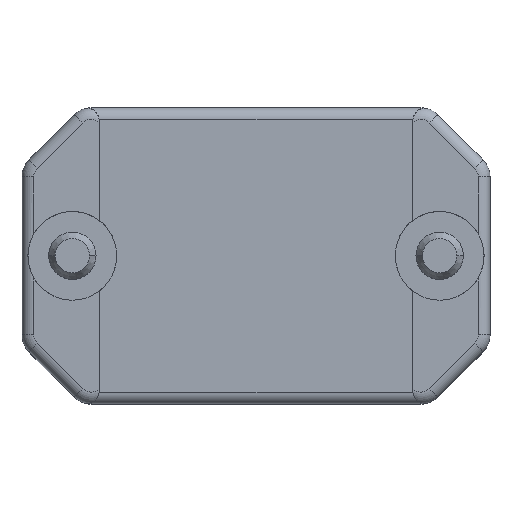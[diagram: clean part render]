
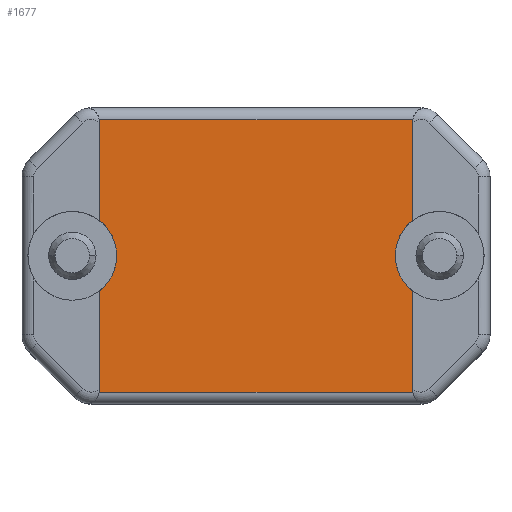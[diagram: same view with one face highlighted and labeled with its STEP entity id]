
A CAD part, top view. The second image highlights one B-rep face of the part: STEP entity #1677.
In plain terms, the highlighted planar face has unit normal (0, 0, 1).
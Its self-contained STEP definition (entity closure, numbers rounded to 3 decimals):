
#150 = EDGE_CURVE ( 'NONE', #5596, #7411, #4645, .T. ) ;
#203 = CIRCLE ( 'NONE', #348, 1. ) ;
#272 = CARTESIAN_POINT ( 'NONE',  ( 5.5, 1.055, 9. ) ) ;
#300 = ORIENTED_EDGE ( 'NONE', *, *, #7700, .T. ) ;
#348 = AXIS2_PLACEMENT_3D ( 'NONE', #272, #4813, #933 ) ;
#440 = DIRECTION ( 'NONE',  ( 1., 0., 0. ) ) ;
#495 = CARTESIAN_POINT ( 'NONE',  ( 33., 1.055, 9. ) ) ;
#511 = CIRCLE ( 'NONE', #4242, 3.75 ) ;
#521 = DIRECTION ( 'NONE',  ( 0., 0., -1. ) ) ;
#581 = CARTESIAN_POINT ( 'NONE',  ( 33., 25., 9. ) ) ;
#725 = DIRECTION ( 'NONE',  ( 0., 0., -1. ) ) ;
#731 = CARTESIAN_POINT ( 'NONE',  ( 6.5, 0., 9. ) ) ;
#771 = VERTEX_POINT ( 'NONE', #5314 ) ;
#933 = DIRECTION ( 'NONE',  ( 1., 0., 0. ) ) ;
#1113 = VERTEX_POINT ( 'NONE', #2887 ) ;
#1244 = ORIENTED_EDGE ( 'NONE', *, *, #4557, .T. ) ;
#1288 = LINE ( 'NONE', #581, #6015 ) ;
#1313 = VECTOR ( 'NONE', #4919, 1000. ) ;
#1366 = AXIS2_PLACEMENT_3D ( 'NONE', #6413, #2555, #7067 ) ;
#1473 = CARTESIAN_POINT ( 'NONE',  ( 6.5, 25., 9. ) ) ;
#1501 = VECTOR ( 'NONE', #4683, 1000. ) ;
#1509 = CARTESIAN_POINT ( 'NONE',  ( 6.5, 9.5, 9. ) ) ;
#1558 = CARTESIAN_POINT ( 'NONE',  ( 34., 1.055, 9. ) ) ;
#1594 = DIRECTION ( 'NONE',  ( 1., 0., 0. ) ) ;
#1659 = EDGE_CURVE ( 'NONE', #4354, #6805, #511, .T. ) ;
#1677 = ADVANCED_FACE ( 'NONE', ( #5474 ), #2575, .T. ) ;
#1685 = VERTEX_POINT ( 'NONE', #5813 ) ;
#1807 = ORIENTED_EDGE ( 'NONE', *, *, #2365, .T. ) ;
#1905 = CARTESIAN_POINT ( 'NONE',  ( 6.5, 15.5, 9. ) ) ;
#1939 = VERTEX_POINT ( 'NONE', #3158 ) ;
#2204 = DIRECTION ( 'NONE',  ( 1., 0., 0. ) ) ;
#2262 = DIRECTION ( 'NONE',  ( 0., 0., 1. ) ) ;
#2325 = ORIENTED_EDGE ( 'NONE', *, *, #1659, .T. ) ;
#2365 = EDGE_CURVE ( 'NONE', #5389, #4354, #6630, .T. ) ;
#2431 = LINE ( 'NONE', #3956, #6228 ) ;
#2517 = DIRECTION ( 'NONE',  ( 0., 1., 0. ) ) ;
#2555 = DIRECTION ( 'NONE',  ( 0., 0., -1. ) ) ;
#2575 = PLANE ( 'NONE',  #6385 ) ;
#2774 = ORIENTED_EDGE ( 'NONE', *, *, #3807, .T. ) ;
#2830 = CIRCLE ( 'NONE', #7352, 1. ) ;
#2887 = CARTESIAN_POINT ( 'NONE',  ( 33., 15.5, 9. ) ) ;
#2996 = CIRCLE ( 'NONE', #3946, 1. ) ;
#3054 = ORIENTED_EDGE ( 'NONE', *, *, #4441, .T. ) ;
#3077 = VERTEX_POINT ( 'NONE', #4220 ) ;
#3152 = EDGE_CURVE ( 'NONE', #3077, #5389, #5120, .T. ) ;
#3158 = CARTESIAN_POINT ( 'NONE',  ( 6.498, 1., 9. ) ) ;
#3179 = DIRECTION ( 'NONE',  ( 0., 0., -1. ) ) ;
#3262 = DIRECTION ( 'NONE',  ( 0., 0., -1. ) ) ;
#3295 = EDGE_CURVE ( 'NONE', #1113, #5999, #1288, .T. ) ;
#3401 = AXIS2_PLACEMENT_3D ( 'NONE', #8214, #4332, #440 ) ;
#3807 = EDGE_CURVE ( 'NONE', #5999, #7054, #2996, .T. ) ;
#3922 = EDGE_CURVE ( 'NONE', #7054, #3077, #5612, .T. ) ;
#3946 = AXIS2_PLACEMENT_3D ( 'NONE', #4405, #521, #5046 ) ;
#3951 = ORIENTED_EDGE ( 'NONE', *, *, #4336, .T. ) ;
#3956 = CARTESIAN_POINT ( 'NONE',  ( 33., 1., 9. ) ) ;
#4009 = ORIENTED_EDGE ( 'NONE', *, *, #150, .T. ) ;
#4024 = CIRCLE ( 'NONE', #1366, 3.75 ) ;
#4068 = ORIENTED_EDGE ( 'NONE', *, *, #7374, .T. ) ;
#4220 = CARTESIAN_POINT ( 'NONE',  ( 6.498, 24., 9. ) ) ;
#4242 = AXIS2_PLACEMENT_3D ( 'NONE', #7119, #3262, #7836 ) ;
#4313 = VECTOR ( 'NONE', #4656, 1000. ) ;
#4332 = DIRECTION ( 'NONE',  ( 0., 0., -1. ) ) ;
#4336 = EDGE_CURVE ( 'NONE', #6805, #5596, #5450, .T. ) ;
#4354 = VERTEX_POINT ( 'NONE', #1905 ) ;
#4405 = CARTESIAN_POINT ( 'NONE',  ( 34., 23.945, 9. ) ) ;
#4441 = EDGE_CURVE ( 'NONE', #1939, #1685, #2431, .T. ) ;
#4486 = ORIENTED_EDGE ( 'NONE', *, *, #6804, .T. ) ;
#4557 = EDGE_CURVE ( 'NONE', #1685, #6894, #2830, .T. ) ;
#4591 = CARTESIAN_POINT ( 'NONE',  ( 33., 23.945, 9. ) ) ;
#4593 = CARTESIAN_POINT ( 'NONE',  ( 35.25, 12.5, 9. ) ) ;
#4645 = LINE ( 'NONE', #7456, #6387 ) ;
#4656 = DIRECTION ( 'NONE',  ( -1., 0., 0. ) ) ;
#4683 = DIRECTION ( 'NONE',  ( 0., -1., 0. ) ) ;
#4776 = VERTEX_POINT ( 'NONE', #8217 ) ;
#4813 = DIRECTION ( 'NONE',  ( 0., 0., -1. ) ) ;
#4919 = DIRECTION ( 'NONE',  ( 0., 1., 0. ) ) ;
#5046 = DIRECTION ( 'NONE',  ( 1., 0., 0. ) ) ;
#5077 = EDGE_LOOP ( 'NONE', ( #4009, #6075, #3054, #1244, #4486, #300, #4068, #7073, #2774, #5362, #6851, #1807, #2325, #3951 ) ) ;
#5120 = CIRCLE ( 'NONE', #3401, 1. ) ;
#5184 = EDGE_CURVE ( 'NONE', #7411, #1939, #203, .T. ) ;
#5228 = DIRECTION ( 'NONE',  ( 1., 0., 0. ) ) ;
#5268 = CARTESIAN_POINT ( 'NONE',  ( 33.002, 24., 9. ) ) ;
#5314 = CARTESIAN_POINT ( 'NONE',  ( 33., 9.5, 9. ) ) ;
#5362 = ORIENTED_EDGE ( 'NONE', *, *, #3922, .T. ) ;
#5389 = VERTEX_POINT ( 'NONE', #7029 ) ;
#5450 = CIRCLE ( 'NONE', #7521, 3.75 ) ;
#5474 = FACE_OUTER_BOUND ( 'NONE', #5077, .T. ) ;
#5596 = VERTEX_POINT ( 'NONE', #1509 ) ;
#5612 = LINE ( 'NONE', #6593, #4313 ) ;
#5758 = DIRECTION ( 'NONE',  ( 0., -1., 0. ) ) ;
#5813 = CARTESIAN_POINT ( 'NONE',  ( 33.002, 1., 9. ) ) ;
#5841 = LINE ( 'NONE', #6856, #1313 ) ;
#5999 = VERTEX_POINT ( 'NONE', #4591 ) ;
#6015 = VECTOR ( 'NONE', #2517, 1000. ) ;
#6035 = DIRECTION ( 'NONE',  ( 0., 0., -1. ) ) ;
#6075 = ORIENTED_EDGE ( 'NONE', *, *, #5184, .T. ) ;
#6188 = CARTESIAN_POINT ( 'NONE',  ( 8., 12.5, 9. ) ) ;
#6228 = VECTOR ( 'NONE', #7156, 1000. ) ;
#6385 = AXIS2_PLACEMENT_3D ( 'NONE', #731, #2262, #1594 ) ;
#6387 = VECTOR ( 'NONE', #5758, 1000. ) ;
#6413 = CARTESIAN_POINT ( 'NONE',  ( 35.25, 12.5, 9. ) ) ;
#6521 = CIRCLE ( 'NONE', #6867, 3.75 ) ;
#6593 = CARTESIAN_POINT ( 'NONE',  ( 6.5, 24., 9. ) ) ;
#6630 = LINE ( 'NONE', #1473, #1501 ) ;
#6804 = EDGE_CURVE ( 'NONE', #6894, #771, #5841, .T. ) ;
#6805 = VERTEX_POINT ( 'NONE', #6188 ) ;
#6851 = ORIENTED_EDGE ( 'NONE', *, *, #3152, .T. ) ;
#6856 = CARTESIAN_POINT ( 'NONE',  ( 33., 25., 9. ) ) ;
#6867 = AXIS2_PLACEMENT_3D ( 'NONE', #4593, #725, #5228 ) ;
#6894 = VERTEX_POINT ( 'NONE', #495 ) ;
#7029 = CARTESIAN_POINT ( 'NONE',  ( 6.5, 23.945, 9. ) ) ;
#7045 = CARTESIAN_POINT ( 'NONE',  ( 4.25, 12.5, 9. ) ) ;
#7054 = VERTEX_POINT ( 'NONE', #5268 ) ;
#7067 = DIRECTION ( 'NONE',  ( 1., 0., 0. ) ) ;
#7073 = ORIENTED_EDGE ( 'NONE', *, *, #3295, .T. ) ;
#7119 = CARTESIAN_POINT ( 'NONE',  ( 4.25, 12.5, 9. ) ) ;
#7156 = DIRECTION ( 'NONE',  ( 1., 0., 0. ) ) ;
#7352 = AXIS2_PLACEMENT_3D ( 'NONE', #1558, #6035, #2204 ) ;
#7374 = EDGE_CURVE ( 'NONE', #4776, #1113, #6521, .T. ) ;
#7411 = VERTEX_POINT ( 'NONE', #7860 ) ;
#7456 = CARTESIAN_POINT ( 'NONE',  ( 6.5, 25., 9. ) ) ;
#7521 = AXIS2_PLACEMENT_3D ( 'NONE', #7045, #3179, #7711 ) ;
#7700 = EDGE_CURVE ( 'NONE', #771, #4776, #4024, .T. ) ;
#7711 = DIRECTION ( 'NONE',  ( 1., 0., 0. ) ) ;
#7836 = DIRECTION ( 'NONE',  ( 1., 0., 0. ) ) ;
#7860 = CARTESIAN_POINT ( 'NONE',  ( 6.5, 1.055, 9. ) ) ;
#8214 = CARTESIAN_POINT ( 'NONE',  ( 5.5, 23.945, 9. ) ) ;
#8217 = CARTESIAN_POINT ( 'NONE',  ( 31.5, 12.5, 9. ) ) ;
